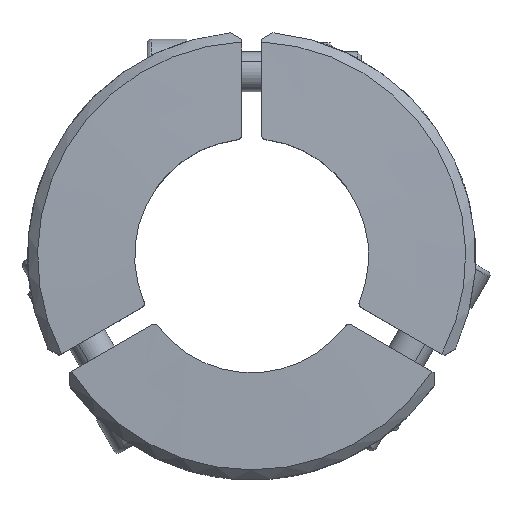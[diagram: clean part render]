
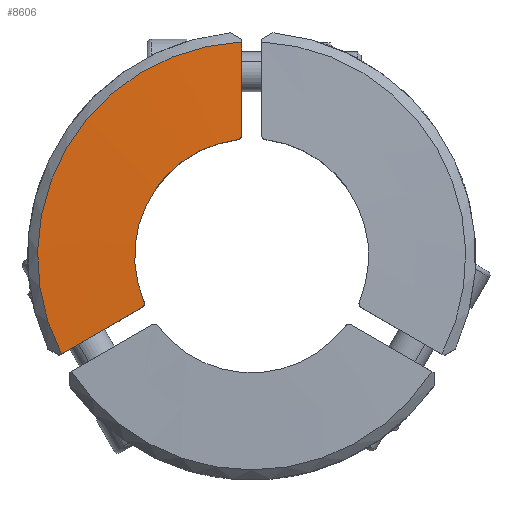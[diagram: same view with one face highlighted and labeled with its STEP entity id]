
A CAD part, top view. The second image highlights one B-rep face of the part: STEP entity #8606.
In plain terms, the highlighted conical face has half-angle 88 degrees and reference radius 34.5 mm.
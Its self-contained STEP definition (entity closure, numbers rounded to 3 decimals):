
#1174=CARTESIAN_POINT('',(-21.61,-9.877,11.491));
#1175=VERTEX_POINT('',#1174);
#1184=CARTESIAN_POINT('',(-22.058,-10.426,11.469));
#1185=VERTEX_POINT('',#1184);
#1186=CARTESIAN_POINT('',(-21.61,-9.877,11.491));
#1187=CARTESIAN_POINT('',(-21.614,-9.89,11.491));
#1188=CARTESIAN_POINT('',(-21.619,-9.903,11.49));
#1189=CARTESIAN_POINT('',(-21.667,-10.03,11.487));
#1190=CARTESIAN_POINT('',(-21.736,-10.143,11.483));
#1191=CARTESIAN_POINT('',(-21.893,-10.313,11.476));
#1192=CARTESIAN_POINT('',(-21.973,-10.377,11.472));
#1193=CARTESIAN_POINT('',(-22.058,-10.426,11.469));
#1194=B_SPLINE_CURVE_WITH_KNOTS('',3,(#1186,#1187,#1188,#1189,#1190,#1191,#1192,#1193),.UNSPECIFIED.,.F.,.U.,(4,2,2,4),(0.526,0.53,0.566,0.595),.UNSPECIFIED.);
#1195=EDGE_CURVE('',#1175,#1185,#1194,.T.);
#1224=CARTESIAN_POINT('',(-2.251,23.653,11.491));
#1225=VERTEX_POINT('',#1224);
#1234=CARTESIAN_POINT('',(-2.878,23.323,11.5));
#1235=VERTEX_POINT('',#1234);
#1236=CARTESIAN_POINT('',(-2.251,23.653,11.491));
#1237=CARTESIAN_POINT('',(-2.324,23.571,11.494));
#1238=CARTESIAN_POINT('',(-2.415,23.496,11.496));
#1239=CARTESIAN_POINT('',(-2.63,23.378,11.499));
#1240=CARTESIAN_POINT('',(-2.756,23.338,11.5));
#1241=CARTESIAN_POINT('',(-2.878,23.323,11.5));
#1242=B_SPLINE_CURVE_WITH_KNOTS('',3,(#1236,#1237,#1238,#1239,#1240,#1241),.UNSPECIFIED.,.F.,.U.,(4,2,4),(0.387,0.42,0.456),.UNSPECIFIED.);
#1243=EDGE_CURVE('',#1225,#1235,#1242,.T.);
#7384=CARTESIAN_POINT('',(-38.2,-19.745,10.819));
#7385=VERTEX_POINT('',#7384);
#7386=CARTESIAN_POINT('',(-22.058,-10.426,11.469));
#7387=CARTESIAN_POINT('',(-27.901,-13.799,11.234));
#7388=CARTESIAN_POINT('',(-38.2,-19.745,10.819));
#7396=(BOUNDED_CURVE()B_SPLINE_CURVE(2,(#7386,#7387,#7388),.UNSPECIFIED.,.F.,.U.)B_SPLINE_CURVE_WITH_KNOTS((3,3),(8.83,8.987),.UNSPECIFIED.)CURVE()GEOMETRIC_REPRESENTATION_ITEM()RATIONAL_B_SPLINE_CURVE((1.78,1.419,1.044))REPRESENTATION_ITEM(''));
#7397=EDGE_CURVE('',#1185,#7385,#7396,.T.);
#7589=CARTESIAN_POINT('',(-2.,42.955,10.819));
#7590=VERTEX_POINT('',#7589);
#7604=CARTESIAN_POINT('',(-2.,24.316,11.469));
#7605=VERTEX_POINT('',#7604);
#7606=CARTESIAN_POINT('',(-2.,42.955,10.819));
#7607=CARTESIAN_POINT('',(-2.,31.063,11.234));
#7608=CARTESIAN_POINT('',(-2.,24.316,11.469));
#7616=(BOUNDED_CURVE()B_SPLINE_CURVE(2,(#7606,#7607,#7608),.UNSPECIFIED.,.F.,.U.)B_SPLINE_CURVE_WITH_KNOTS((3,3),(0.009,0.166),.UNSPECIFIED.)CURVE()GEOMETRIC_REPRESENTATION_ITEM()RATIONAL_B_SPLINE_CURVE((1.044,1.419,1.78))REPRESENTATION_ITEM(''));
#7617=EDGE_CURVE('',#7590,#7605,#7616,.T.);
#7680=CARTESIAN_POINT('',(-2.,24.316,11.469));
#7681=CARTESIAN_POINT('',(-2.,24.218,11.472));
#7682=CARTESIAN_POINT('',(-2.015,24.116,11.476));
#7683=CARTESIAN_POINT('',(-2.083,23.895,11.483));
#7684=CARTESIAN_POINT('',(-2.147,23.779,11.487));
#7685=CARTESIAN_POINT('',(-2.233,23.674,11.49));
#7686=CARTESIAN_POINT('',(-2.242,23.664,11.491));
#7687=CARTESIAN_POINT('',(-2.251,23.653,11.491));
#7688=B_SPLINE_CURVE_WITH_KNOTS('',3,(#7680,#7681,#7682,#7683,#7684,#7685,#7686,#7687),.UNSPECIFIED.,.F.,.U.,(4,2,2,4),(0.318,0.346,0.383,0.387),.UNSPECIFIED.);
#7689=EDGE_CURVE('',#7605,#1225,#7688,.T.);
#7740=CARTESIAN_POINT('',(-21.637,-9.17,11.5));
#7741=VERTEX_POINT('',#7740);
#7748=CARTESIAN_POINT('',(-21.637,-9.17,11.5));
#7749=CARTESIAN_POINT('',(-21.59,-9.282,11.5));
#7750=CARTESIAN_POINT('',(-21.561,-9.411,11.499));
#7751=CARTESIAN_POINT('',(-21.556,-9.657,11.496));
#7752=CARTESIAN_POINT('',(-21.575,-9.773,11.494));
#7753=CARTESIAN_POINT('',(-21.61,-9.877,11.491));
#7754=B_SPLINE_CURVE_WITH_KNOTS('',3,(#7748,#7749,#7750,#7751,#7752,#7753),.UNSPECIFIED.,.F.,.U.,(4,2,4),(0.456,0.493,0.526),.UNSPECIFIED.);
#7755=EDGE_CURVE('',#7741,#1175,#7754,.T.);
#8550=CARTESIAN_POINT('',(0.,0.0,10.819));
#8551=DIRECTION('',(0.,0.,-1.));
#8552=DIRECTION('',(-0.044,0.999,0.));
#8553=AXIS2_PLACEMENT_3D('',#8550,#8551,#8552);
#8554=CIRCLE('',#8553,43.001);
#8555=EDGE_CURVE('',#7385,#7590,#8554,.T.);
#8585=CARTESIAN_POINT('',(0.0,0.,11.116));
#8586=DIRECTION('',(0.0,0.,-1.0));
#8587=DIRECTION('',(0.0,1.0,0.0));
#8588=AXIS2_PLACEMENT_3D('',#8585,#8586,#8587);
#8589=CONICAL_SURFACE('',#8588,34.5,88.);
#8590=ORIENTED_EDGE('',*,*,#7689,.F.);
#8591=ORIENTED_EDGE('',*,*,#7617,.F.);
#8592=ORIENTED_EDGE('',*,*,#8555,.F.);
#8593=ORIENTED_EDGE('',*,*,#7397,.F.);
#8594=ORIENTED_EDGE('',*,*,#1195,.F.);
#8595=ORIENTED_EDGE('',*,*,#7755,.F.);
#8596=CARTESIAN_POINT('',(0.0,0.0,11.5));
#8597=DIRECTION('',(0.0,0.0,1.));
#8598=DIRECTION('',(-0.085,0.996,0.0));
#8599=AXIS2_PLACEMENT_3D('',#8596,#8597,#8598);
#8600=CIRCLE('',#8599,23.5);
#8601=EDGE_CURVE('',#1235,#7741,#8600,.T.);
#8602=ORIENTED_EDGE('',*,*,#8601,.F.);
#8603=ORIENTED_EDGE('',*,*,#1243,.F.);
#8604=EDGE_LOOP('',(#8590,#8591,#8592,#8593,#8594,#8595,#8602,#8603));
#8605=FACE_OUTER_BOUND('',#8604,.T.);
#8606=ADVANCED_FACE('',(#8605),#8589,.T.);
